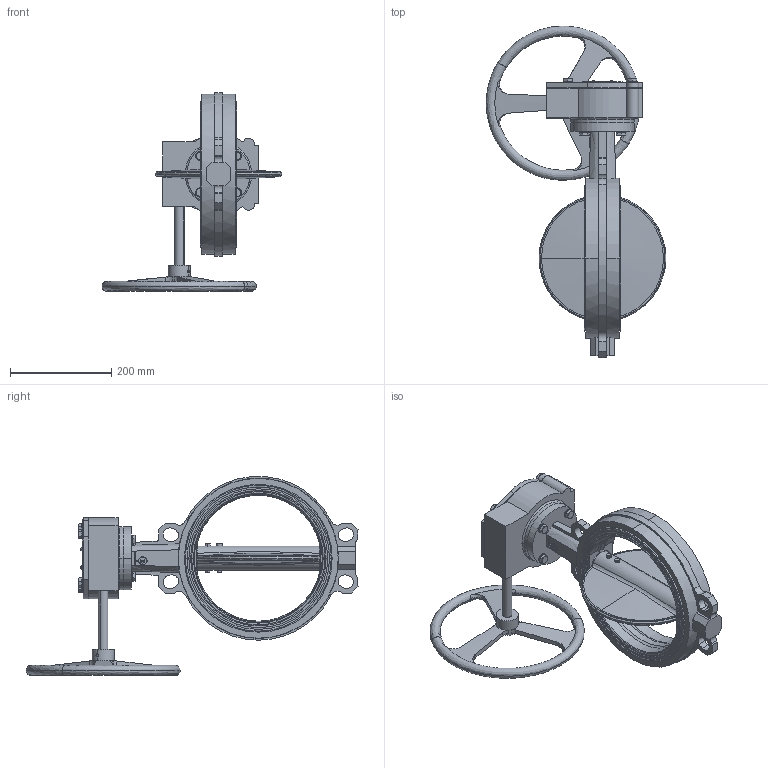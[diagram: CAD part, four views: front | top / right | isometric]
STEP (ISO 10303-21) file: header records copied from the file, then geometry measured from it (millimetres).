
FILE_DESCRIPTION (( 'STEP AP214' ), '1' );
FILE_NAME ('VPG444X-08XX0250.step', '2022-06-30T08:23:28', ( '' ), ( '' ), 'SwSTEP 2.0', 'SolidWorks 2020', '' );
FILE_SCHEMA (( 'AUTOMOTIVE_DESIGN' ));
Length unit declared in the file: millimetre
Products named in the file (1): VPG444X-08XX0250
Bounding box: 355.2 x 655.95 x 392.93 mm (x, y, z)
Surface area: 651319.1 mm2 (no closed solid volume)
Topology: 0 solids, 71 shells, 746 faces, 5491 edges, 4732 vertices
Faces by surface type: plane 453, cylinder 131, cone 86, bspline 76
Entity records: 82681 total; most frequent: CARTESIAN_POINT 37582, ORIENTED_EDGE 7046, DIRECTION 5865, EDGE_CURVE 5481, VERTEX_POINT 4732, VECTOR 3297, LINE 3297, B_SPLINE_CURVE_WITH_KNOTS 1539
